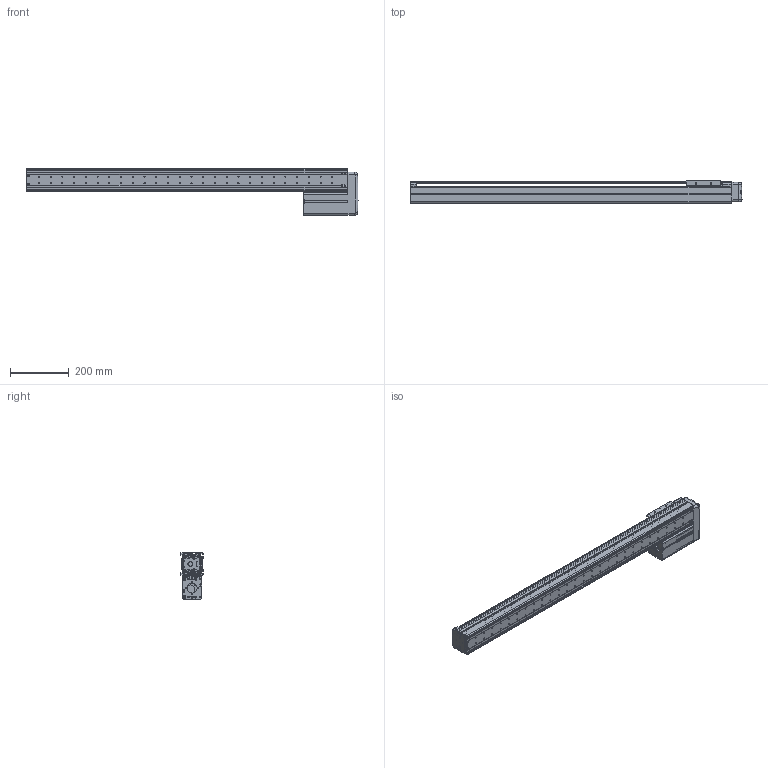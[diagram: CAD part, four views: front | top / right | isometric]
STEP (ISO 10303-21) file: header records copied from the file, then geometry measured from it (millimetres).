
FILE_DESCRIPTION((''),'2;1');
FILE_NAME('BE10E-UL-M_N-90_IGS_PRT','2017-06-17T',(' '),(''),'PRO/ENGINEER BY PARAMETRIC TECHNOLOGY CORPORATION, 2015030','PRO/ENGINEER BY PARAMETRIC TECHNOLOGY CORPORATION, 2015030','');
FILE_SCHEMA(('CONFIG_CONTROL_DESIGN'));
Length unit declared in the file: millimetre
Products named in the file (1): BE10E-UL-M_N-90_IGS_PRT
Bounding box: 1131.42 x 75 x 160 mm (x, y, z)
Volume: 1566480.4 mm3; surface area: 1059131 mm2
Topology: 2 solids, 129 shells, 1874 faces, 5061 edges, 3303 vertices
Faces by surface type: cylinder 921, plane 725, cone 81, torus 69, sphere 44, bspline 34
Entity records: 61417 total; most frequent: CARTESIAN_POINT 13055, DIRECTION 10496, ORIENTED_EDGE 9564, EDGE_CURVE 5025, AXIS2_PLACEMENT_3D 3949, VERTEX_POINT 3303, VECTOR 2598, LINE 2598
